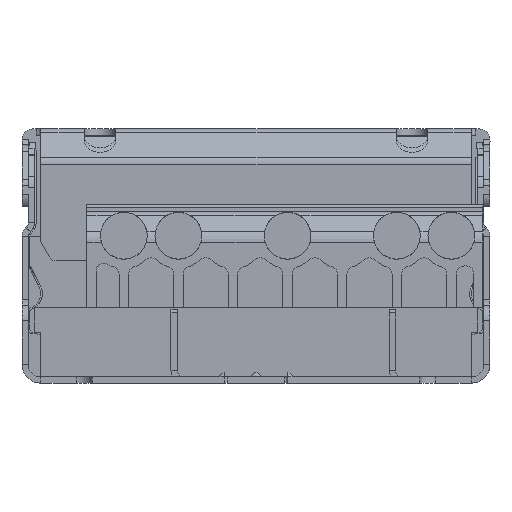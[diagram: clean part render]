
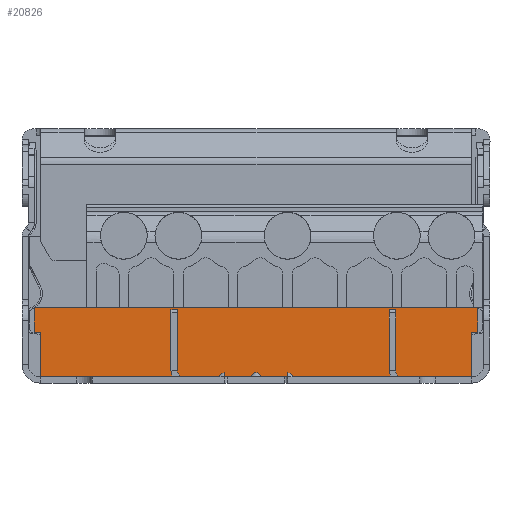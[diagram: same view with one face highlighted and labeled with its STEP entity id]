
A CAD part, left-side view. The second image highlights one B-rep face of the part: STEP entity #20826.
In plain terms, the highlighted planar face has unit normal (-1, 0, 0).
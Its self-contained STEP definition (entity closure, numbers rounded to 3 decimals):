
#92=DIRECTION('',(0.,0.,-1.));
#93=VECTOR('',#92,2.85);
#94=CARTESIAN_POINT('',(9.,-13.8,3.25));
#95=LINE('',#94,#93);
#316=DIRECTION('',(0.,0.,1.));
#317=VECTOR('',#316,1.6);
#318=CARTESIAN_POINT('',(9.,-14.2,3.25));
#319=LINE('',#318,#317);
#581=DIRECTION('',(0.,1.,0.));
#582=VECTOR('',#581,28.4);
#583=CARTESIAN_POINT('',(9.,-14.2,4.85));
#584=LINE('',#583,#582);
#4130=DIRECTION('',(0.,-1.,0.));
#4131=VECTOR('',#4130,0.4);
#4132=CARTESIAN_POINT('',(9.,-13.8,3.25));
#4133=LINE('',#4132,#4131);
#4146=DIRECTION('',(0.,-1.,0.));
#4147=VECTOR('',#4146,0.4);
#4148=CARTESIAN_POINT('',(9.,14.2,3.25));
#4149=LINE('',#4148,#4147);
#4174=DIRECTION('',(0.,0.,-1.));
#4175=VECTOR('',#4174,2.85);
#4176=CARTESIAN_POINT('',(9.,13.8,3.25));
#4177=LINE('',#4176,#4175);
#5063=DIRECTION('',(0.,-1.,0.));
#5064=VECTOR('',#5063,3.45);
#5065=CARTESIAN_POINT('',(9.,13.8,0.4));
#5066=LINE('',#5065,#5064);
#5089=DIRECTION('',(0.,-1.,0.));
#5090=VECTOR('',#5089,8.3);
#5091=CARTESIAN_POINT('',(9.,4.65,0.4));
#5092=LINE('',#5091,#5090);
#5115=DIRECTION('',(0.,-1.,0.));
#5116=VECTOR('',#5115,4.45);
#5117=CARTESIAN_POINT('',(9.,-9.35,0.4));
#5118=LINE('',#5117,#5116);
#5391=DIRECTION('',(0.,0.,1.));
#5392=VECTOR('',#5391,1.6);
#5393=CARTESIAN_POINT('',(9.,14.2,3.25));
#5394=LINE('',#5393,#5392);
#5395=CARTESIAN_POINT('',(9.,-9.35,0.8));
#5396=DIRECTION('',(1.,0.,0.));
#5397=DIRECTION('',(0.,0.,-1.));
#5398=AXIS2_PLACEMENT_3D('',#5395,#5396,#5397);
#5421=DIRECTION('',(0.,0.,1.));
#5422=VECTOR('',#5421,2.45);
#5423=CARTESIAN_POINT('',(9.,-8.55,0.8));
#5424=LINE('',#5423,#5422);
#5451=DIRECTION('',(0.,1.,0.));
#5452=VECTOR('',#5451,0.4);
#5453=CARTESIAN_POINT('',(9.,-8.95,3.25));
#5454=LINE('',#5453,#5452);
#5455=DIRECTION('',(0.,0.,1.));
#5456=VECTOR('',#5455,2.45);
#5457=CARTESIAN_POINT('',(9.,-8.95,0.8));
#5458=LINE('',#5457,#5456);
#5501=CARTESIAN_POINT('',(9.,-9.35,0.8));
#5502=DIRECTION('',(1.,0.,0.));
#5503=DIRECTION('',(0.,0.866,-0.5));
#5504=AXIS2_PLACEMENT_3D('',#5501,#5502,#5503);
#5532=DIRECTION('',(0.,1.,0.));
#5533=VECTOR('',#5532,5.007);
#5534=CARTESIAN_POINT('',(9.,5.343,0.4));
#5535=LINE('',#5534,#5533);
#5545=DIRECTION('',(0.,1.,0.));
#5546=VECTOR('',#5545,5.007);
#5547=CARTESIAN_POINT('',(9.,-8.657,0.4));
#5548=LINE('',#5547,#5546);
#5595=CARTESIAN_POINT('',(9.,4.65,0.8));
#5596=DIRECTION('',(1.,0.,0.));
#5597=DIRECTION('',(0.,0.866,-0.5));
#5598=AXIS2_PLACEMENT_3D('',#5595,#5596,#5597);
#5618=DIRECTION('',(0.,0.,1.));
#5619=VECTOR('',#5618,2.45);
#5620=CARTESIAN_POINT('',(9.,5.45,0.8));
#5621=LINE('',#5620,#5619);
#5648=DIRECTION('',(0.,1.,0.));
#5649=VECTOR('',#5648,0.4);
#5650=CARTESIAN_POINT('',(9.,5.05,3.25));
#5651=LINE('',#5650,#5649);
#5652=DIRECTION('',(0.,0.,1.));
#5653=VECTOR('',#5652,2.45);
#5654=CARTESIAN_POINT('',(9.,5.05,0.8));
#5655=LINE('',#5654,#5653);
#5682=CARTESIAN_POINT('',(9.,4.65,0.8));
#5683=DIRECTION('',(1.,0.,0.));
#5684=DIRECTION('',(0.,0.,-1.));
#5685=AXIS2_PLACEMENT_3D('',#5682,#5683,#5684);
#12242=CARTESIAN_POINT('',(9.,-14.2,3.25));
#12243=CARTESIAN_POINT('',(9.,-14.2,4.85));
#12244=VERTEX_POINT('',#12242);
#12245=VERTEX_POINT('',#12243);
#12246=CARTESIAN_POINT('',(9.,14.2,3.25));
#12247=CARTESIAN_POINT('',(9.,14.2,4.85));
#12248=VERTEX_POINT('',#12246);
#12249=VERTEX_POINT('',#12247);
#13056=CARTESIAN_POINT('',(9.,13.8,0.4));
#13057=CARTESIAN_POINT('',(9.,10.35,0.4));
#13058=VERTEX_POINT('',#13056);
#13059=VERTEX_POINT('',#13057);
#13060=CARTESIAN_POINT('',(9.,4.65,0.4));
#13061=CARTESIAN_POINT('',(9.,-3.65,0.4));
#13062=VERTEX_POINT('',#13060);
#13063=VERTEX_POINT('',#13061);
#13064=CARTESIAN_POINT('',(9.,5.45,0.8));
#13065=CARTESIAN_POINT('',(9.,5.45,3.25));
#13066=VERTEX_POINT('',#13064);
#13067=VERTEX_POINT('',#13065);
#13068=CARTESIAN_POINT('',(9.,5.05,0.8));
#13069=CARTESIAN_POINT('',(9.,5.05,3.25));
#13070=VERTEX_POINT('',#13068);
#13071=VERTEX_POINT('',#13069);
#13072=CARTESIAN_POINT('',(9.,5.343,0.4));
#13073=VERTEX_POINT('',#13072);
#13166=CARTESIAN_POINT('',(9.,13.8,3.25));
#13167=VERTEX_POINT('',#13166);
#13170=CARTESIAN_POINT('',(9.,-13.8,3.25));
#13171=CARTESIAN_POINT('',(9.,-13.8,0.4));
#13172=VERTEX_POINT('',#13170);
#13173=VERTEX_POINT('',#13171);
#13178=CARTESIAN_POINT('',(9.,-8.657,0.4));
#13179=VERTEX_POINT('',#13178);
#13196=CARTESIAN_POINT('',(9.,-9.35,0.4));
#13197=VERTEX_POINT('',#13196);
#13198=CARTESIAN_POINT('',(9.,-8.55,0.8));
#13199=CARTESIAN_POINT('',(9.,-8.55,3.25));
#13200=VERTEX_POINT('',#13198);
#13201=VERTEX_POINT('',#13199);
#13202=CARTESIAN_POINT('',(9.,-8.95,0.8));
#13203=CARTESIAN_POINT('',(9.,-8.95,3.25));
#13204=VERTEX_POINT('',#13202);
#13205=VERTEX_POINT('',#13203);
#20785=CARTESIAN_POINT('',(9.,14.2,3.25));
#20786=DIRECTION('',(-1.,0.,0.));
#20787=DIRECTION('',(0.,-1.,0.));
#20788=AXIS2_PLACEMENT_3D('',#20785,#20786,#20787);
#20789=PLANE('',#20788);
#20790=ORIENTED_EDGE('',*,*,#14574,.F.);
#20791=ORIENTED_EDGE('',*,*,#14407,.F.);
#20792=ORIENTED_EDGE('',*,*,#19481,.F.);
#20793=ORIENTED_EDGE('',*,*,#13921,.T.);
#20794=ORIENTED_EDGE('',*,*,#20374,.F.);
#20796=ORIENTED_EDGE('',*,*,#20795,.T.);
#20798=ORIENTED_EDGE('',*,*,#20797,.T.);
#20800=ORIENTED_EDGE('',*,*,#20799,.T.);
#20802=ORIENTED_EDGE('',*,*,#20801,.F.);
#20804=ORIENTED_EDGE('',*,*,#20803,.F.);
#20806=ORIENTED_EDGE('',*,*,#20805,.T.);
#20807=ORIENTED_EDGE('',*,*,#20362,.F.);
#20809=ORIENTED_EDGE('',*,*,#20808,.T.);
#20811=ORIENTED_EDGE('',*,*,#20810,.T.);
#20813=ORIENTED_EDGE('',*,*,#20812,.T.);
#20815=ORIENTED_EDGE('',*,*,#20814,.F.);
#20817=ORIENTED_EDGE('',*,*,#20816,.F.);
#20819=ORIENTED_EDGE('',*,*,#20818,.T.);
#20820=ORIENTED_EDGE('',*,*,#20350,.F.);
#20821=ORIENTED_EDGE('',*,*,#19548,.F.);
#20822=ORIENTED_EDGE('',*,*,#19501,.F.);
#20823=ORIENTED_EDGE('',*,*,#15747,.T.);
#20824=EDGE_LOOP('',(#20790,#20791,#20792,#20793,#20794,#20796,#20798,#20800,
#20802,#20804,#20806,#20807,#20809,#20811,#20813,#20815,#20817,#20819,#20820,
#20821,#20822,#20823));
#20825=FACE_OUTER_BOUND('',#20824,.F.);
#20826=ADVANCED_FACE('',(#20825),#20789,.T.);
#5399=CIRCLE('',#5398,0.4);
#5505=CIRCLE('',#5504,0.8);
#5599=CIRCLE('',#5598,0.8);
#5686=CIRCLE('',#5685,0.4);
#13921=EDGE_CURVE('',#13172,#13173,#95,.T.);
#14407=EDGE_CURVE('',#12244,#12245,#319,.T.);
#14574=EDGE_CURVE('',#12245,#12249,#584,.T.);
#15747=EDGE_CURVE('',#12248,#12249,#5394,.T.);
#19481=EDGE_CURVE('',#13172,#12244,#4133,.T.);
#19501=EDGE_CURVE('',#12248,#13167,#4149,.T.);
#19548=EDGE_CURVE('',#13167,#13058,#4177,.T.);
#20350=EDGE_CURVE('',#13058,#13059,#5066,.T.);
#20362=EDGE_CURVE('',#13062,#13063,#5092,.T.);
#20374=EDGE_CURVE('',#13197,#13173,#5118,.T.);
#20795=EDGE_CURVE('',#13197,#13204,#5399,.T.);
#20797=EDGE_CURVE('',#13204,#13205,#5458,.T.);
#20799=EDGE_CURVE('',#13205,#13201,#5454,.T.);
#20801=EDGE_CURVE('',#13200,#13201,#5424,.T.);
#20803=EDGE_CURVE('',#13179,#13200,#5505,.T.);
#20805=EDGE_CURVE('',#13179,#13063,#5548,.T.);
#20808=EDGE_CURVE('',#13062,#13070,#5686,.T.);
#20810=EDGE_CURVE('',#13070,#13071,#5655,.T.);
#20812=EDGE_CURVE('',#13071,#13067,#5651,.T.);
#20814=EDGE_CURVE('',#13066,#13067,#5621,.T.);
#20816=EDGE_CURVE('',#13073,#13066,#5599,.T.);
#20818=EDGE_CURVE('',#13073,#13059,#5535,.T.);
